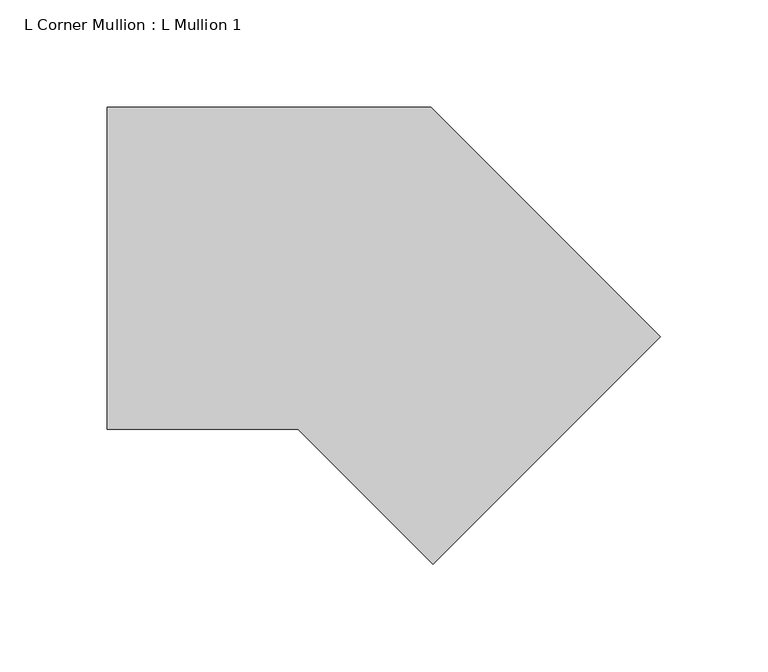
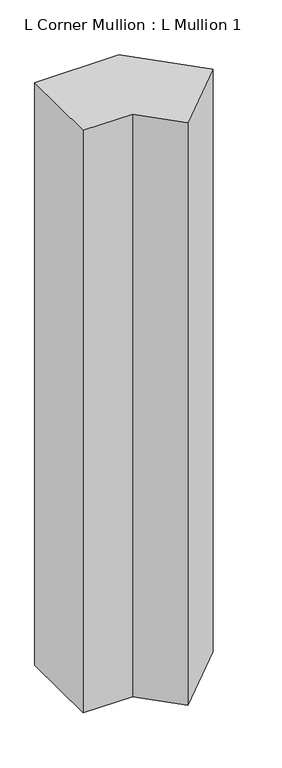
"""IFC4 building model written with IfcOpenShell, lengths in millimetres: member geometry, L Corner Mullion : L Mullion 1."""

from ifc_helpers import new_model, si_unit, frame, origin, place, context, project, spatial, polyline, outline, extrude, source, transform, mapped, element, save


def l_corner_mullion_l_mullion_1_c02d540a(model_context):
    return source(origin(), model_context, "Body", "SweptSolid", [
        extrude(outline(polyline([(20.636039, -164.8858223), (-42.2497834, -102.0), (-131.1837662, -102.0), (-131.1837662, 48.0), (19.882251, 48.0), (126.7020561, -58.8198052), (20.636039, -164.8858223)])), frame((0.0, 0.0, -1105.0), z_axis=(0.0, 0.0, 1.0), x_axis=(1.0, 0.0, 0.0)), (0.0, 0.0, 1.0), 1105.0),
    ])


if __name__ == "__main__":
    model = new_model("IFC4")
    model_context = context("Model", 3, world=origin())
    ifc_project = project(units=[si_unit("LENGTHUNIT", "METRE", prefix="MILLI")], contexts=[model_context])
    site = spatial("IfcSite", under=ifc_project)
    building = spatial("IfcBuilding", under=site)
    placement = place(None, origin())
    l_corner_mullion_l_mullion_1_shape = l_corner_mullion_l_mullion_1_c02d540a(model_context)
    element("IfcMember", 1, ObjectType="L Corner Mullion : L Mullion 1", at=placement, inside=building, context=model_context, shape_type="MappedRepresentation", body=[
        mapped(l_corner_mullion_l_mullion_1_shape, transform((0.0, 0.0, 0.0), x_axis=(1.0, 0.0, 0.0), y_axis=(0.0, 1.0, 0.0), z_axis=(0.0, 0.0, 1.0))),
    ])
    save(model, "model.ifc")
